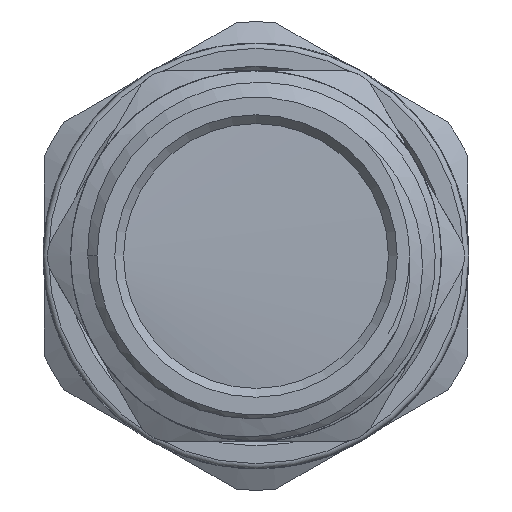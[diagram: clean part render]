
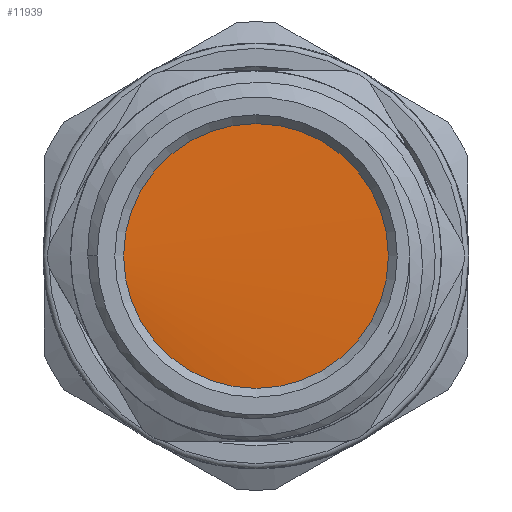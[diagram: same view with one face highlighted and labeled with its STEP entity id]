
A CAD part, left-side view. The second image highlights one B-rep face of the part: STEP entity #11939.
In plain terms, the highlighted cylindrical face has radius 10.5 mm (diameter 21 mm), a full revolution.
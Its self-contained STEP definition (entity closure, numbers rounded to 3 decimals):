
#714=FACE_OUTER_BOUND('',#1399,.T.);
#1399=EDGE_LOOP('',(#8017,#8018,#8019));
#2143=B_SPLINE_CURVE_WITH_KNOTS('',3,(#15533,#15534,#15535,#15536,#15537,
#15538,#15539,#15540,#15541,#15542,#15543,#15544,#15545,#15546,#15547,#15548,
#15549),.UNSPECIFIED.,.F.,.F.,(4,1,1,1,1,1,1,1,1,1,1,1,1,1,4),(31.416,
31.684,32.181,32.679,33.177,33.674,
34.172,34.669,35.167,35.664,36.162,
36.66,37.157,37.655,37.699),
 .UNSPECIFIED.);
#3236=LINE('',#15474,#4013);
#3240=LINE('',#15532,#4017);
#4013=VECTOR('',#13329,10.5);
#4017=VECTOR('',#13353,10.5);
#4790=VERTEX_POINT('',#15472);
#4791=VERTEX_POINT('',#15473);
#4804=VERTEX_POINT('',#15531);
#6080=EDGE_CURVE('',#4790,#4791,#3236,.T.);
#6095=EDGE_CURVE('',#4804,#4791,#3240,.T.);
#6096=EDGE_CURVE('',#4804,#4790,#2143,.T.);
#8017=ORIENTED_EDGE('',*,*,#6080,.T.);
#8018=ORIENTED_EDGE('',*,*,#6095,.F.);
#8019=ORIENTED_EDGE('',*,*,#6096,.T.);
#11845=CYLINDRICAL_SURFACE('',#12652,10.5);
#11939=ADVANCED_FACE('',(#714),#11845,.T.);
#12652=AXIS2_PLACEMENT_3D('',#15530,#13351,#13352);
#13329=DIRECTION('',(-1.,0.,0.));
#13351=DIRECTION('center_axis',(-1.,0.,0.));
#13352=DIRECTION('ref_axis',(0.,-1.,0.));
#13353=DIRECTION('',(1.,0.,0.));
#15472=CARTESIAN_POINT('',(-9.969,10.5,0.));
#15473=CARTESIAN_POINT('',(-11.669,10.5,0.));
#15474=CARTESIAN_POINT('',(-13.519,10.5,0.));
#15530=CARTESIAN_POINT('Origin',(-13.519,0.,0.));
#15531=CARTESIAN_POINT('',(-11.769,10.5,0.));
#15532=CARTESIAN_POINT('',(-13.519,10.5,0.));
#15533=CARTESIAN_POINT('Ctrl Pts',(-11.769,10.499,0.));
#15534=CARTESIAN_POINT('Ctrl Pts',(-11.743,10.499,0.938));
#15535=CARTESIAN_POINT('Ctrl Pts',(-11.67,10.143,3.618));
#15536=CARTESIAN_POINT('Ctrl Pts',(-11.55,7.89,7.582));
#15537=CARTESIAN_POINT('Ctrl Pts',(-11.407,3.315,10.429));
#15538=CARTESIAN_POINT('Ctrl Pts',(-11.265,-2.065,
10.747));
#15539=CARTESIAN_POINT('Ctrl Pts',(-11.122,-6.944,
8.458));
#15540=CARTESIAN_POINT('Ctrl Pts',(-10.979,-10.139,
4.118));
#15541=CARTESIAN_POINT('Ctrl Pts',(-10.837,-10.875,
-1.22));
#15542=CARTESIAN_POINT('Ctrl Pts',(-10.694,-8.974,
-6.263));
#15543=CARTESIAN_POINT('Ctrl Pts',(-10.552,-4.896,
-9.787));
#15544=CARTESIAN_POINT('Ctrl Pts',(-10.409,0.369,-10.937));
#15545=CARTESIAN_POINT('Ctrl Pts',(-10.267,5.544,-9.435));
#15546=CARTESIAN_POINT('Ctrl Pts',(-10.124,9.375,-5.645));
#15547=CARTESIAN_POINT('Ctrl Pts',(-10.025,10.46,-2.052));
#15548=CARTESIAN_POINT('Ctrl Pts',(-9.973,10.501,-0.156));
#15549=CARTESIAN_POINT('Ctrl Pts',(-9.969,10.501,0.));
